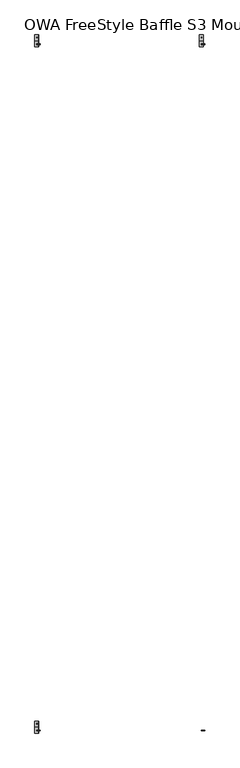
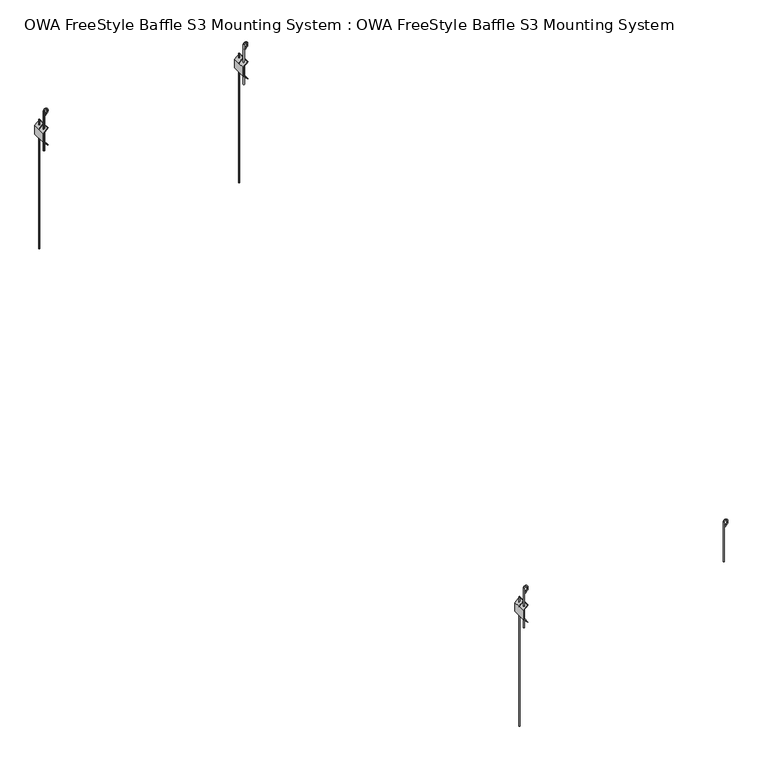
"""IFC4 building model written with IfcOpenShell, lengths in millimetres: proxy geometry, OWA FreeStyle Baffle S3 Mounting System : OWA FreeStyle Baffle S3 Mounting System."""

from ifc_helpers import new_model, si_unit, point, frame, frame_2d, origin, origin_with_axes, place, context, project, spatial, circle_curve, ellipse_curve, trimmed, segment, composite_curve, outline, extrude, faceted_brep, source, transform, mapped, element, save
from ifc_brep_helpers import plane_surface, cylinder_surface, revolved_surface, advanced_brep


def owa_freestyle_baffle_s3_mounting_system_owa_freestyle_baffle_664c1bcd(model_context):
    return source(origin(), model_context, "Body", "SolidModel", [
        advanced_brep(
        [(-125.0826228, -2912.5, 339.3301206), (-128.0826228, -2912.5, 339.3301206), (-125.0826228, -2912.5, 469.8822039), (-128.0826228, -2912.5, 469.8822039), (-114.2638295, -2912.5, 469.8822039), (-117.2638295, -2912.5, 469.8822039), (-124.9635248, -2912.5, 454.4407062), (-122.7329392, -2912.5, 452.4345935), (-117.2638295, -2912.5, 466.7035654), (-114.2638295, -2912.5, 466.7035654), (-117.508527, -2912.5, 458.2435882), (-119.7391125, -2912.5, 460.249701)],
        [
            (0, 1, circle_curve(frame((-126.5826228, -2912.5, 339.3301206), z_axis=(0.0, 0.0, -1.0), x_axis=(-1.0, 0.0, 0.0)), 1.5)),
            (1, 0, circle_curve(frame((-126.5826228, -2912.5, 339.3301206), z_axis=(0.0, 0.0, -1.0), x_axis=(-1.0, 0.0, 0.0)), 1.5)),
            (0, 2),
            (2, 3, circle_curve(frame((-126.5826228, -2912.5, 469.8822039), z_axis=(0.0, 0.0, -1.0), x_axis=(-1.0, 0.0, 0.0)), 1.5)),
            (3, 1),
            (3, 2, circle_curve(frame((-126.5826228, -2912.5, 469.8822039), z_axis=(0.0, 0.0, -1.0), x_axis=(-1.0, 0.0, 0.0)), 1.5)),
            (4, 3, circle_curve(frame((-121.1732261, -2912.5, 469.8822039), z_axis=(0.0, -1.0, 0.0), x_axis=(-1.0, 0.0, 0.0)), 6.9093967)),
            (2, 5, circle_curve(frame((-121.1732261, -2912.5, 469.8822039), z_axis=(0.0, 1.0, 0.0), x_axis=(-1.0, 0.0, 0.0)), 3.9093967)),
            (5, 4, circle_curve(frame((-115.7638295, -2912.5, 469.8822039), z_axis=(0.0, 0.0, 1.0), x_axis=(1.0, 0.0, 0.0)), 1.5)),
            (4, 5, circle_curve(frame((-115.7638295, -2912.5, 469.8822039), z_axis=(0.0, 0.0, 1.0), x_axis=(1.0, 0.0, 0.0)), 1.5)),
            (6, 7, circle_curve(frame((-123.848232, -2912.5, 453.4376499), z_axis=(-0.6687042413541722, 0.0, -0.7435285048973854), x_axis=(0.7435285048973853, 0.0, -0.6687042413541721)), 1.5)),
            (7, 6, circle_curve(frame((-123.848232, -2912.5, 453.4376499), z_axis=(-0.6687042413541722, 0.0, -0.7435285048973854), x_axis=(0.7435285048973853, 0.0, -0.6687042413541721)), 1.5)),
            (5, 8),
            (8, 9, circle_curve(frame((-115.7638295, -2912.5, 466.7035654), z_axis=(0.0, 0.0, 1.0), x_axis=(1.0, 0.0, 0.0)), 1.5)),
            (9, 4),
            (9, 8, circle_curve(frame((-115.7638295, -2912.5, 466.7035654), z_axis=(0.0, 0.0, 1.0), x_axis=(1.0, 0.0, 0.0)), 1.5)),
            (10, 9, circle_curve(frame((-126.9151283, -2912.5, 466.7035654), z_axis=(0.0, -1.0, 0.0), x_axis=(1.0, 0.0, 0.0)), 12.6512988)),
            (8, 11, circle_curve(frame((-126.9151283, -2912.5, 466.7035654), z_axis=(0.0, 1.0, 0.0), x_axis=(1.0, 0.0, 0.0)), 9.6512988)),
            (11, 10, circle_curve(frame((-118.6238198, -2912.5, 459.2466446), z_axis=(0.6687042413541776, 0.0, 0.7435285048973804), x_axis=(0.7435285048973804, 0.0, -0.6687042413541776)), 1.5)),
            (10, 11, circle_curve(frame((-118.6238198, -2912.5, 459.2466446), z_axis=(0.6687042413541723, 0.0, 0.7435285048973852), x_axis=(0.7435285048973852, 0.0, -0.6687042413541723)), 1.5)),
            (11, 6),
            (7, 10),
        ],
        [
            plane_surface(frame((-126.5826228, -2912.5, 339.3301206), z_axis=(0.0, 0.0, -1.0), x_axis=(0.0, -1.0, 0.0))),
            cylinder_surface(frame((-126.5826228, -2912.5, 339.3301206), z_axis=(0.0, 0.0, -1.0), x_axis=(-1.0, 0.0, 0.0)), 1.5),
            revolved_surface(trimmed(ellipse_curve(frame((-126.5826228, -2912.5, 469.8822039), z_axis=(0.0, 0.0, -1.0), x_axis=(-1.0, 0.0, 0.0)), 1.5, 1.5), [point((-125.0826228, -2912.5, 469.8822039))], [point((-128.0826228, -2912.5, 469.8822039))], True, "CARTESIAN"), (-121.1732261, -2912.5, 469.8822039), (0.0, 1.0, 0.0)),
            revolved_surface(trimmed(ellipse_curve(frame((-126.5826228, -2912.5, 469.8822039), z_axis=(0.0, 0.0, -1.0), x_axis=(-1.0, 0.0, 0.0)), 1.5, 1.5), [point((-128.0826228, -2912.5, 469.8822039))], [point((-125.0826228, -2912.5, 469.8822039))], True, "CARTESIAN"), (-121.1732261, -2912.5, 469.8822039), (0.0, 1.0, 0.0)),
            plane_surface(frame((-123.848232, -2912.5, 453.4376499), z_axis=(-0.6687042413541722, 0.0, -0.7435285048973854), x_axis=(0.0, -1.0, 0.0))),
            cylinder_surface(frame((-115.7638295, -2912.5, 469.8822039), z_axis=(0.0, 0.0, 1.0), x_axis=(1.0, 0.0, 0.0)), 1.5),
            revolved_surface(trimmed(ellipse_curve(frame((-115.7638295, -2912.5, 466.7035654), z_axis=(0.0, 0.0, 1.0), x_axis=(1.0, 0.0, 0.0)), 1.5, 1.5), [point((-117.2638295, -2912.5, 466.7035654))], [point((-114.2638295, -2912.5, 466.7035654))], True, "CARTESIAN"), (-126.9151283, -2912.5, 466.7035654), (0.0, 1.0, 0.0)),
            revolved_surface(trimmed(ellipse_curve(frame((-115.7638295, -2912.5, 466.7035654), z_axis=(0.0, 0.0, 1.0), x_axis=(1.0, 0.0, 0.0)), 1.5, 1.5), [point((-114.2638295, -2912.5, 466.7035654))], [point((-117.2638295, -2912.5, 466.7035654))], True, "CARTESIAN"), (-126.9151283, -2912.5, 466.7035654), (0.0, 1.0, 0.0)),
            cylinder_surface(frame((-118.6238198, -2912.5, 459.2466446), z_axis=(0.6687042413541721, 0.0, 0.7435285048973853), x_axis=(0.7435285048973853, 0.0, -0.6687042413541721)), 1.5),
        ],
        [
            (0, [[1, 2]]),
            (1, [[-1, 3, 4, 5]]),
            (1, [[-2, -5, 6, -3]]),
            (2, [[7, -4, 8, 9]]),
            (3, [[-8, -6, -7, 10]]),
            (4, [[11, 12]]),
            (5, [[-9, 13, 14, 15]]),
            (5, [[-10, -15, 16, -13]]),
            (6, [[17, -14, 18, 19]]),
            (7, [[-18, -16, -17, 20]]),
            (8, [[-19, 21, -12, 22]]),
            (8, [[-20, -22, -11, -21]]),
        ],
    ),
        advanced_brep(
        [(-751.5162765, -2886.0, 426.2503123), (-751.5162765, -2889.0, 426.2503123), (-751.5162765, -2886.0, 0.0), (-751.5162765, -2889.0, 0.0), (-751.5162765, -2886.0, 412.0222083), (-751.5162765, -2889.0, 412.0222083), (-751.5162765, -2889.0, 366.7975715), (-751.5162765, -2886.0, 366.7975715), (-751.5162765, -2886.0, 410.6079948), (-751.5162765, -2886.0, 368.211785), (-751.5162765, -2889.0, 368.211785), (-751.5162765, -2889.0, 410.6079948), (-750.0162765, -2912.5, 339.3301206), (-753.0162765, -2912.5, 339.3301206), (-750.0162765, -2912.5, 365.2975715), (-753.0162765, -2912.5, 368.2975715), (-750.0162765, -2912.5, 469.8822039), (-753.0162765, -2912.5, 469.8822039), (-753.0162765, -2912.5, 410.5222083), (-750.0162765, -2912.5, 413.5222083), (-750.0162765, -2912.5, 366.711785), (-750.0162765, -2912.5, 412.1079948), (-753.0162765, -2912.5, 409.1079948), (-753.0162765, -2912.5, 369.711785), (-742.1974832, -2912.5, 469.8822039), (-739.1974832, -2912.5, 469.8822039), (-749.8971784, -2912.5, 454.4407062), (-747.6665929, -2912.5, 452.4345935), (-742.1974832, -2912.5, 466.7035654), (-739.1974832, -2912.5, 466.7035654), (-744.6727662, -2912.5, 460.249701), (-742.4421807, -2912.5, 458.2435882), (-744.5722457, -2922.5, 417.5520255), (-745.2793525, -2922.5, 418.2591323), (-759.7143814, -2922.5, 403.8241035), (-759.7143814, -2922.5, 374.9956763), (-745.2793525, -2922.5, 360.5606475), (-744.5722457, -2922.5, 361.2677543), (-758.7143814, -2922.5, 375.4098899), (-758.7143814, -2922.5, 403.4098899), (-744.5722457, -2877.5, 417.5520255), (-758.7143814, -2877.5, 403.4098899), (-758.7143814, -2877.5, 375.4098899), (-744.5722457, -2877.5, 361.2677543), (-745.2793525, -2877.5, 360.5606475), (-759.7143814, -2877.5, 374.9956763), (-759.7143814, -2877.5, 403.8241035), (-745.2793525, -2877.5, 418.2591323), (-744.5722457, -2901.3, 417.5520255), (-745.2793525, -2901.3, 418.2591323), (-745.2793525, -2898.7, 418.2591323), (-744.5722457, -2898.7, 417.5520255), (-759.7143814, -2901.3, 403.8241035), (-759.7143814, -2898.7, 403.8241035), (-759.7143814, -2898.7, 374.9956763), (-759.7143814, -2901.3, 374.9956763), (-745.2793525, -2901.3, 360.5606475), (-745.2793525, -2898.7, 360.5606475), (-744.5722457, -2901.3, 361.2677543), (-744.5722457, -2898.7, 361.2677543), (-758.7143814, -2901.3, 375.4098899), (-758.7143814, -2898.7, 375.4098899), (-758.7143814, -2898.7, 403.4098899), (-758.7143814, -2901.3, 403.4098899)],
        [
            (0, 1, circle_curve(frame((-751.5162765, -2887.5, 426.2503123), z_axis=(0.0, 0.0, 1.0), x_axis=(0.0, -1.0, 0.0)), 1.5)),
            (1, 0, circle_curve(frame((-751.5162765, -2887.5, 426.2503123), z_axis=(0.0, 0.0, 1.0), x_axis=(0.0, -1.0, 0.0)), 1.5)),
            (2, 3, circle_curve(frame((-751.5162765, -2887.5, 0.0), z_axis=(0.0, 0.0, -1.0), x_axis=(0.0, -1.0, 0.0)), 1.5)),
            (3, 2, circle_curve(frame((-751.5162765, -2887.5, 0.0), z_axis=(0.0, 0.0, -1.0), x_axis=(0.0, -1.0, 0.0)), 1.5)),
            (0, 4),
            (4, 5, ellipse_curve(frame((-751.5162765, -2887.5, 412.0222083), z_axis=(-0.7071067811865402, 0.0, 0.7071067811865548), x_axis=(0.7071067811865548, 0.0, 0.7071067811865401)), 2.1213203, 1.5)),
            (5, 1),
            (3, 6),
            (6, 7, ellipse_curve(frame((-751.5162765, -2887.5, 366.7975715), z_axis=(-0.7071067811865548, 0.0, -0.7071067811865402), x_axis=(-0.7071067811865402, 0.0, 0.7071067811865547)), 2.1213203, 1.5)),
            (7, 2),
            (8, 9),
            (9, 10, ellipse_curve(frame((-751.5162765, -2887.5, 368.211785), z_axis=(0.7071067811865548, 0.0, 0.7071067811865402), x_axis=(-0.7071067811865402, 0.0, 0.7071067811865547)), 2.1213203, 1.5)),
            (10, 11),
            (11, 8, ellipse_curve(frame((-751.5162765, -2887.5, 410.6079948), z_axis=(0.7071067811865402, 0.0, -0.7071067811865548), x_axis=(0.7071067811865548, 0.0, 0.7071067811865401)), 2.1213203, 1.5)),
            (5, 4, ellipse_curve(frame((-751.5162765, -2887.5, 412.0222083), z_axis=(-0.7071067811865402, 0.0, 0.7071067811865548), x_axis=(0.7071067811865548, 0.0, 0.7071067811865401)), 2.1213203, 1.5)),
            (7, 6, ellipse_curve(frame((-751.5162765, -2887.5, 366.7975715), z_axis=(-0.7071067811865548, 0.0, -0.7071067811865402), x_axis=(-0.7071067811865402, 0.0, 0.7071067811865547)), 2.1213203, 1.5)),
            (8, 11, ellipse_curve(frame((-751.5162765, -2887.5, 410.6079948), z_axis=(0.7071067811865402, 0.0, -0.7071067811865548), x_axis=(0.7071067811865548, 0.0, 0.7071067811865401)), 2.1213203, 1.5)),
            (10, 9, ellipse_curve(frame((-751.5162765, -2887.5, 368.211785), z_axis=(0.7071067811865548, 0.0, 0.7071067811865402), x_axis=(-0.7071067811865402, 0.0, 0.7071067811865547)), 2.1213203, 1.5)),
            (12, 13, circle_curve(frame((-751.5162765, -2912.5, 339.3301206), z_axis=(0.0, 0.0, -1.0), x_axis=(-1.0, 0.0, 0.0)), 1.5)),
            (13, 12, circle_curve(frame((-751.5162765, -2912.5, 339.3301206), z_axis=(0.0, 0.0, -1.0), x_axis=(-1.0, 0.0, 0.0)), 1.5)),
            (12, 14),
            (14, 15, ellipse_curve(frame((-751.5162765, -2912.5, 366.7975715), z_axis=(-0.7071067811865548, 0.0, -0.7071067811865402), x_axis=(0.7071067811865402, 0.0, -0.7071067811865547)), 2.1213203, 1.5)),
            (15, 13),
            (16, 17, circle_curve(frame((-751.5162765, -2912.5, 469.8822039), z_axis=(0.0, 0.0, -1.0), x_axis=(-1.0, 0.0, 0.0)), 1.5)),
            (17, 18),
            (18, 19, ellipse_curve(frame((-751.5162765, -2912.5, 412.0222083), z_axis=(-0.7071067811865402, 0.0, 0.7071067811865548), x_axis=(-0.7071067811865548, 0.0, -0.7071067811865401)), 2.1213203, 1.5)),
            (19, 16),
            (20, 21),
            (21, 22, ellipse_curve(frame((-751.5162765, -2912.5, 410.6079948), z_axis=(0.7071067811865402, 0.0, -0.7071067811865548), x_axis=(-0.7071067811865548, 0.0, -0.7071067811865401)), 2.1213203, 1.5)),
            (22, 23),
            (23, 20, ellipse_curve(frame((-751.5162765, -2912.5, 368.211785), z_axis=(0.7071067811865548, 0.0, 0.7071067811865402), x_axis=(0.7071067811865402, 0.0, -0.7071067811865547)), 2.1213203, 1.5)),
            (15, 14, ellipse_curve(frame((-751.5162765, -2912.5, 366.7975715), z_axis=(-0.7071067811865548, 0.0, -0.7071067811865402), x_axis=(0.7071067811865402, 0.0, -0.7071067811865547)), 2.1213203, 1.5)),
            (20, 23, ellipse_curve(frame((-751.5162765, -2912.5, 368.211785), z_axis=(0.7071067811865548, 0.0, 0.7071067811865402), x_axis=(0.7071067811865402, 0.0, -0.7071067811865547)), 2.1213203, 1.5)),
            (22, 21, ellipse_curve(frame((-751.5162765, -2912.5, 410.6079948), z_axis=(0.7071067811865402, 0.0, -0.7071067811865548), x_axis=(-0.7071067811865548, 0.0, -0.7071067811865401)), 2.1213203, 1.5)),
            (17, 16, circle_curve(frame((-751.5162765, -2912.5, 469.8822039), z_axis=(0.0, 0.0, -1.0), x_axis=(-1.0, 0.0, 0.0)), 1.5)),
            (19, 18, ellipse_curve(frame((-751.5162765, -2912.5, 412.0222083), z_axis=(-0.7071067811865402, 0.0, 0.7071067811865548), x_axis=(-0.7071067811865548, 0.0, -0.7071067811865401)), 2.1213203, 1.5)),
            (16, 24, circle_curve(frame((-746.1068798, -2912.5, 469.8822039), z_axis=(0.0, 1.0, 0.0), x_axis=(-1.0, 0.0, 0.0)), 3.9093967)),
            (24, 25, circle_curve(frame((-740.6974832, -2912.5, 469.8822039), z_axis=(0.0, 0.0, 1.0), x_axis=(1.0, 0.0, 0.0)), 1.5)),
            (25, 17, circle_curve(frame((-746.1068798, -2912.5, 469.8822039), z_axis=(0.0, -1.0, 0.0), x_axis=(-1.0, 0.0, 0.0)), 6.9093967)),
            (25, 24, circle_curve(frame((-740.6974832, -2912.5, 469.8822039), z_axis=(0.0, 0.0, 1.0), x_axis=(1.0, 0.0, 0.0)), 1.5)),
            (26, 27, circle_curve(frame((-748.7818857, -2912.5, 453.4376499), z_axis=(-0.6687042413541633, 0.0, -0.7435285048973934), x_axis=(0.7435285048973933, 0.0, -0.6687042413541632)), 1.5)),
            (27, 26, circle_curve(frame((-748.7818857, -2912.5, 453.4376499), z_axis=(-0.6687042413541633, 0.0, -0.7435285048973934), x_axis=(0.7435285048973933, 0.0, -0.6687042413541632)), 1.5)),
            (24, 28),
            (28, 29, circle_curve(frame((-740.6974832, -2912.5, 466.7035654), z_axis=(0.0, 0.0, 1.0), x_axis=(1.0, 0.0, 0.0)), 1.5)),
            (29, 25),
            (29, 28, circle_curve(frame((-740.6974832, -2912.5, 466.7035654), z_axis=(0.0, 0.0, 1.0), x_axis=(1.0, 0.0, 0.0)), 1.5)),
            (28, 30, circle_curve(frame((-751.8487819, -2912.5, 466.7035654), z_axis=(0.0, 1.0, 0.0), x_axis=(1.0, 0.0, 0.0)), 9.6512988)),
            (30, 31, circle_curve(frame((-743.5574734, -2912.5, 459.2466446), z_axis=(0.668704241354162, 0.0, 0.7435285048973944), x_axis=(0.7435285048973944, 0.0, -0.668704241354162)), 1.5)),
            (31, 29, circle_curve(frame((-751.8487819, -2912.5, 466.7035654), z_axis=(0.0, -1.0, 0.0), x_axis=(1.0, 0.0, 0.0)), 12.6512988)),
            (31, 30, circle_curve(frame((-743.5574734, -2912.5, 459.2466446), z_axis=(0.6687042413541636, 0.0, 0.743528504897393), x_axis=(0.743528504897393, 0.0, -0.6687042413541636)), 1.5)),
            (27, 31),
            (30, 26),
            (32, 33),
            (33, 34),
            (34, 35),
            (35, 36),
            (36, 37),
            (37, 38),
            (38, 39),
            (39, 32),
            (40, 41),
            (41, 42),
            (42, 43),
            (43, 44),
            (44, 45),
            (45, 46),
            (46, 47),
            (47, 40),
            (32, 48),
            (48, 49),
            (49, 33),
            (47, 50),
            (50, 51),
            (51, 40),
            (49, 52),
            (52, 34),
            (46, 53),
            (53, 50),
            (52, 53),
            (45, 54),
            (54, 55),
            (55, 35),
            (55, 56),
            (56, 36),
            (44, 57),
            (57, 54),
            (56, 58),
            (58, 37),
            (43, 59),
            (59, 57),
            (58, 60),
            (60, 38),
            (42, 61),
            (61, 59),
            (60, 61),
            (41, 62),
            (62, 63),
            (63, 39),
            (63, 48),
            (51, 62),
            (61, 54),
            (53, 62),
            (55, 60),
            (63, 52),
        ],
        [
            plane_surface(frame((-751.5162765, -2887.5, 426.2503123), z_axis=(0.0, 0.0, 1.0), x_axis=(0.0, -1.0, 0.0))),
            plane_surface(frame((-751.5162765, -2887.5, 0.0), z_axis=(0.0, 0.0, -1.0), x_axis=(0.0, -1.0, 0.0))),
            cylinder_surface(frame((-751.5162765, -2887.5, 426.2503123), z_axis=(0.0, 0.0, 1.0), x_axis=(0.0, -1.0, 0.0)), 1.5),
            plane_surface(frame((-751.5162765, -2912.5, 339.3301206), z_axis=(0.0, 0.0, -1.0), x_axis=(0.0, -1.0, 0.0))),
            cylinder_surface(frame((-751.5162765, -2912.5, 339.3301206), z_axis=(0.0, 0.0, -1.0), x_axis=(-1.0, 0.0, 0.0)), 1.5),
            revolved_surface(trimmed(ellipse_curve(frame((-751.5162765, -2912.5, 469.8822039), z_axis=(0.0, 0.0, -1.0), x_axis=(-1.0, 0.0, 0.0)), 1.5, 1.5), [point((-750.0162765, -2912.5, 469.8822039))], [point((-753.0162765, -2912.5, 469.8822039))], True, "CARTESIAN"), (-746.1068798, -2912.5, 469.8822039), (0.0, 1.0, 0.0)),
            revolved_surface(trimmed(ellipse_curve(frame((-751.5162765, -2912.5, 469.8822039), z_axis=(0.0, 0.0, -1.0), x_axis=(-1.0, 0.0, 0.0)), 1.5, 1.5), [point((-753.0162765, -2912.5, 469.8822039))], [point((-750.0162765, -2912.5, 469.8822039))], True, "CARTESIAN"), (-746.1068798, -2912.5, 469.8822039), (0.0, 1.0, 0.0)),
            plane_surface(frame((-748.7818857, -2912.5, 453.4376499), z_axis=(-0.6687042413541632, 0.0, -0.7435285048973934), x_axis=(0.0, -1.0, 0.0))),
            cylinder_surface(frame((-740.6974832, -2912.5, 469.8822039), z_axis=(0.0, 0.0, 1.0), x_axis=(1.0, 0.0, 0.0)), 1.5),
            revolved_surface(trimmed(ellipse_curve(frame((-740.6974832, -2912.5, 466.7035654), z_axis=(0.0, 0.0, 1.0), x_axis=(1.0, 0.0, 0.0)), 1.5, 1.5), [point((-742.1974832, -2912.5, 466.7035654))], [point((-739.1974832, -2912.5, 466.7035654))], True, "CARTESIAN"), (-751.8487819, -2912.5, 466.7035654), (0.0, 1.0, 0.0)),
            revolved_surface(trimmed(ellipse_curve(frame((-740.6974832, -2912.5, 466.7035654), z_axis=(0.0, 0.0, 1.0), x_axis=(1.0, 0.0, 0.0)), 1.5, 1.5), [point((-739.1974832, -2912.5, 466.7035654))], [point((-742.1974832, -2912.5, 466.7035654))], True, "CARTESIAN"), (-751.8487819, -2912.5, 466.7035654), (0.0, 1.0, 0.0)),
            cylinder_surface(frame((-743.5574734, -2912.5, 459.2466446), z_axis=(0.6687042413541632, 0.0, 0.7435285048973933), x_axis=(0.7435285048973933, 0.0, -0.6687042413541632)), 1.5),
            plane_surface(frame((-744.5722457, -2922.5, 361.2677543), z_axis=(0.0, -1.0, 0.0), x_axis=(0.0, 0.0, 1.0))),
            plane_surface(frame((-744.5722457, -2877.5, 361.2677543), z_axis=(0.0, 1.0, 0.0), x_axis=(0.0, 0.0, 1.0))),
            plane_surface(frame((-744.5722457, -2922.5, 417.5520255), z_axis=(0.707106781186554, 0.0, 0.7071067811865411), x_axis=(0.0, 1.0, 0.0))),
            plane_surface(frame((-745.2793525, -2922.5, 418.2591323), z_axis=(-0.7071067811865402, 0.0, 0.7071067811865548), x_axis=(0.0, 1.0, 0.0))),
            plane_surface(frame((-759.7143814, -2922.5, 403.8241035), z_axis=(-1.0, 0.0, 0.0), x_axis=(0.0, 1.0, 0.0))),
            plane_surface(frame((-759.7143814, -2922.5, 374.9956763), z_axis=(-0.7071067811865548, 0.0, -0.7071067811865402), x_axis=(0.0, 1.0, 0.0))),
            plane_surface(frame((-745.2793525, -2922.5, 360.5606475), z_axis=(0.7071067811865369, 0.0, -0.7071067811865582), x_axis=(0.0, 1.0, 0.0))),
            plane_surface(frame((-744.5722457, -2922.5, 361.2677543), z_axis=(0.7071067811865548, 0.0, 0.7071067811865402), x_axis=(0.0, 1.0, 0.0))),
            plane_surface(frame((-758.7143814, -2922.5, 375.4098899), z_axis=(1.0, 0.0, 0.0), x_axis=(0.0, 1.0, 0.0))),
            plane_surface(frame((-758.7143814, -2922.5, 403.4098899), z_axis=(0.7071067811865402, 0.0, -0.7071067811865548), x_axis=(0.0, 1.0, 0.0))),
            plane_surface(frame((-758.7143814, -2898.7, 375.4098899), z_axis=(0.0, -1.0000000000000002, 0.0), x_axis=(0.9238795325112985, 0.0, 0.3826834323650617))),
            plane_surface(frame((-758.7143814, -2901.3, 375.4098899), z_axis=(0.0, 1.0000000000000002, 0.0), x_axis=(-0.9238795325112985, 0.0, -0.3826834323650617))),
            plane_surface(frame((-759.7143814, -2898.7, 374.9956763), z_axis=(0.3826834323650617, 0.0, -0.9238795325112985), x_axis=(0.0, -1.0, 0.0))),
            plane_surface(frame((-758.7143814, -2898.7, 403.4098899), z_axis=(0.3826834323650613, 0.0, 0.9238795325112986), x_axis=(0.0, -1.0, 0.0))),
        ],
        [
            (0, [[1, 2]]),
            (1, [[3, 4]]),
            (2, [[-1, 5, 6, 7]]),
            (2, [[-4, 8, 9, 10]]),
            (2, [[11, 12, 13, 14]]),
            (2, [[-2, -7, 15, -5]]),
            (2, [[-3, -10, 16, -8]]),
            (2, [[-11, 17, -13, 18]]),
            (3, [[19, 20]]),
            (4, [[-19, 21, 22, 23]]),
            (4, [[24, 25, 26, 27]]),
            (4, [[28, 29, 30, 31]]),
            (4, [[-20, -23, 32, -21]]),
            (4, [[-28, 33, -30, 34]]),
            (4, [[35, -27, 36, -25]]),
            (5, [[-24, 37, 38, 39]]),
            (6, [[-35, -39, 40, -37]]),
            (7, [[41, 42]]),
            (8, [[-38, 43, 44, 45]]),
            (8, [[-40, -45, 46, -43]]),
            (9, [[-44, 47, 48, 49]]),
            (10, [[-46, -49, 50, -47]]),
            (11, [[-42, 51, -48, 52]]),
            (11, [[-41, -52, -50, -51]]),
            (12, [[53, 54, 55, 56, 57, 58, 59, 60]]),
            (13, [[61, 62, 63, 64, 65, 66, 67, 68]]),
            (14, [[-53, 69, 70, 71]]),
            (14, [[-68, 72, 73, 74]]),
            (15, [[-54, -71, 75, 76], [-26, -36]]),
            (15, [[-67, 77, 78, -72], [-6, -15]]),
            (16, [[-55, -76, 79, -77, -66, 80, 81, 82]]),
            (17, [[-56, -82, 83, 84], [-22, -32]]),
            (17, [[-65, 85, 86, -80], [-9, -16]]),
            (18, [[-57, -84, 87, 88]]),
            (18, [[-64, 89, 90, -85]]),
            (19, [[-58, -88, 91, 92], [-31, -33]]),
            (19, [[-63, 93, 94, -89], [-12, -18]]),
            (20, [[-59, -92, 95, -93, -62, 96, 97, 98]]),
            (21, [[-60, -98, 99, -69], [-29, -34]]),
            (21, [[-61, -74, 100, -96], [-14, -17]]),
            (22, [[101, -86, -90, -94]]),
            (22, [[102, -100, -73, -78]]),
            (23, [[103, -91, -87, -83]]),
            (23, [[104, -75, -70, -99]]),
            (24, [[-101, -95, -103, -81]]),
            (25, [[-102, -79, -104, -97]]),
        ],
    ),
        faceted_brep([(-119.638592, -322.5, 417.5520255), (-120.3456988, -322.5, 418.2591323), (-134.7807277, -322.5, 403.8241035), (-134.7807277, -322.5, 374.9956763), (-120.3456988, -322.5, 360.5606475), (-119.638592, -322.5, 361.2677543), (-133.7807277, -322.5, 375.4098899), (-133.7807277, -322.5, 403.4098899), (-119.638592, -277.5, 417.5520255), (-133.7807277, -277.5, 403.4098899), (-133.7807277, -277.5, 375.4098899), (-119.638592, -277.5, 361.2677543), (-120.3456988, -277.5, 360.5606475), (-134.7807277, -277.5, 374.9956763), (-134.7807277, -277.5, 403.8241035), (-120.3456988, -277.5, 418.2591323), (-119.638592, -301.3, 417.5520255), (-120.3456988, -301.3, 418.2591323), (-120.3456988, -298.7, 418.2591323), (-119.638592, -298.7, 417.5520255), (-134.7807277, -301.3, 403.8241035), (-134.7807277, -298.7, 403.8241035), (-134.7807277, -298.7, 374.9956763), (-134.7807277, -301.3, 374.9681948), (-120.3456988, -301.3, 360.5606475), (-120.3456988, -298.7, 360.5606475), (-119.638592, -301.3, 361.2677543), (-119.638592, -298.7, 361.2677543), (-133.7807277, -301.3, 375.4098899), (-133.7807277, -298.7, 375.4098899), (-133.7807277, -298.7, 403.4098899), (-133.7807277, -301.3, 403.4373715)], [[[0, 1, 2, 3, 4, 5, 6, 7]], [[8, 9, 10, 11, 12, 13, 14, 15]], [[1, 0, 16, 17]], [[8, 15, 18, 19]], [[2, 1, 17, 20]], [[15, 14, 21, 18]], [[3, 2, 20, 21, 14, 13, 22, 23]], [[4, 3, 23, 24]], [[13, 12, 25, 22]], [[5, 4, 24, 26]], [[12, 11, 27, 25]], [[6, 5, 26, 28]], [[11, 10, 29, 27]], [[7, 6, 28, 29, 10, 9, 30, 31]], [[0, 7, 31, 16]], [[9, 8, 19, 30]], [[29, 22, 25, 27]], [[21, 30, 19, 18]], [[23, 28, 26, 24]], [[31, 20, 17, 16]], [[22, 29, 28, 23]], [[30, 21, 20, 31]]]),
        extrude(outline(composite_curve([segment(trimmed(circle_curve(frame_2d((-126.5826228, -287.5)), 1.5), [point((-126.5826228, -286.0))], [point((-126.5826228, -289.0))], False, "CARTESIAN"), True, "CONTINUOUS"), segment(trimmed(circle_curve(frame_2d((-126.5826228, -287.5)), 1.5), [point((-126.5826228, -289.0))], [point((-126.5826228, -286.0))], False, "CARTESIAN"), True, "CONTINUOUS")], self_intersect=False)), origin_with_axes(), (0.0, 0.0, 1.0), 426.2503123),
        advanced_brep(
        [(-125.0826228, -312.5, 339.3301206), (-128.0826228, -312.5, 339.3301206), (-125.0826228, -312.5, 469.8822039), (-128.0826228, -312.5, 469.8822039), (-114.2638295, -312.5, 469.8822039), (-117.2638295, -312.5, 469.8822039), (-124.9635248, -312.5, 454.4407062), (-122.7329392, -312.5, 452.4345935), (-117.2638295, -312.5, 466.7035654), (-114.2638295, -312.5, 466.7035654), (-117.508527, -312.5, 458.2435882), (-119.7391125, -312.5, 460.249701)],
        [
            (0, 1, circle_curve(frame((-126.5826228, -312.5, 339.3301206), z_axis=(0.0, 0.0, -1.0), x_axis=(-1.0, 0.0, 0.0)), 1.5)),
            (1, 0, circle_curve(frame((-126.5826228, -312.5, 339.3301206), z_axis=(0.0, 0.0, -1.0), x_axis=(-1.0, 0.0, 0.0)), 1.5)),
            (0, 2),
            (2, 3, circle_curve(frame((-126.5826228, -312.5, 469.8822039), z_axis=(0.0, 0.0, -1.0), x_axis=(-1.0, 0.0, 0.0)), 1.5)),
            (3, 1),
            (3, 2, circle_curve(frame((-126.5826228, -312.5, 469.8822039), z_axis=(0.0, 0.0, -1.0), x_axis=(-1.0, 0.0, 0.0)), 1.5)),
            (4, 3, circle_curve(frame((-121.1732261, -312.5, 469.8822039), z_axis=(0.0, -1.0, 0.0), x_axis=(-1.0, 0.0, 0.0)), 6.9093967)),
            (2, 5, circle_curve(frame((-121.1732261, -312.5, 469.8822039), z_axis=(0.0, 1.0, 0.0), x_axis=(-1.0, 0.0, 0.0)), 3.9093967)),
            (5, 4, circle_curve(frame((-115.7638295, -312.5, 469.8822039), z_axis=(0.0, 0.0, 1.0), x_axis=(1.0, 0.0, 0.0)), 1.5)),
            (4, 5, circle_curve(frame((-115.7638295, -312.5, 469.8822039), z_axis=(0.0, 0.0, 1.0), x_axis=(1.0, 0.0, 0.0)), 1.5)),
            (6, 7, circle_curve(frame((-123.848232, -312.5, 453.4376499), z_axis=(-0.6687042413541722, 0.0, -0.7435285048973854), x_axis=(0.7435285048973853, 0.0, -0.6687042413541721)), 1.5)),
            (7, 6, circle_curve(frame((-123.848232, -312.5, 453.4376499), z_axis=(-0.6687042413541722, 0.0, -0.7435285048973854), x_axis=(0.7435285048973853, 0.0, -0.6687042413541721)), 1.5)),
            (5, 8),
            (8, 9, circle_curve(frame((-115.7638295, -312.5, 466.7035654), z_axis=(0.0, 0.0, 1.0), x_axis=(1.0, 0.0, 0.0)), 1.5)),
            (9, 4),
            (9, 8, circle_curve(frame((-115.7638295, -312.5, 466.7035654), z_axis=(0.0, 0.0, 1.0), x_axis=(1.0, 0.0, 0.0)), 1.5)),
            (10, 9, circle_curve(frame((-126.9151283, -312.5, 466.7035654), z_axis=(0.0, -1.0, 0.0), x_axis=(1.0, 0.0, 0.0)), 12.6512988)),
            (8, 11, circle_curve(frame((-126.9151283, -312.5, 466.7035654), z_axis=(0.0, 1.0, 0.0), x_axis=(1.0, 0.0, 0.0)), 9.6512988)),
            (11, 10, circle_curve(frame((-118.6238198, -312.5, 459.2466446), z_axis=(0.6687042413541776, 0.0, 0.7435285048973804), x_axis=(0.7435285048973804, 0.0, -0.6687042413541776)), 1.5)),
            (10, 11, circle_curve(frame((-118.6238198, -312.5, 459.2466446), z_axis=(0.6687042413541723, 0.0, 0.7435285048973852), x_axis=(0.7435285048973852, 0.0, -0.6687042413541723)), 1.5)),
            (11, 6),
            (7, 10),
        ],
        [
            plane_surface(frame((-126.5826228, -312.5, 339.3301206), z_axis=(0.0, 0.0, -1.0), x_axis=(0.0, -1.0, 0.0))),
            cylinder_surface(frame((-126.5826228, -312.5, 339.3301206), z_axis=(0.0, 0.0, -1.0), x_axis=(-1.0, 0.0, 0.0)), 1.5),
            revolved_surface(trimmed(ellipse_curve(frame((-126.5826228, -312.5, 469.8822039), z_axis=(0.0, 0.0, -1.0), x_axis=(-1.0, 0.0, 0.0)), 1.5, 1.5), [point((-125.0826228, -312.5, 469.8822039))], [point((-128.0826228, -312.5, 469.8822039))], True, "CARTESIAN"), (-121.1732261, -312.5, 469.8822039), (0.0, 1.0, 0.0)),
            revolved_surface(trimmed(ellipse_curve(frame((-126.5826228, -312.5, 469.8822039), z_axis=(0.0, 0.0, -1.0), x_axis=(-1.0, 0.0, 0.0)), 1.5, 1.5), [point((-128.0826228, -312.5, 469.8822039))], [point((-125.0826228, -312.5, 469.8822039))], True, "CARTESIAN"), (-121.1732261, -312.5, 469.8822039), (0.0, 1.0, 0.0)),
            plane_surface(frame((-123.848232, -312.5, 453.4376499), z_axis=(-0.6687042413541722, 0.0, -0.7435285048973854), x_axis=(0.0, -1.0, 0.0))),
            cylinder_surface(frame((-115.7638295, -312.5, 469.8822039), z_axis=(0.0, 0.0, 1.0), x_axis=(1.0, 0.0, 0.0)), 1.5),
            revolved_surface(trimmed(ellipse_curve(frame((-115.7638295, -312.5, 466.7035654), z_axis=(0.0, 0.0, 1.0), x_axis=(1.0, 0.0, 0.0)), 1.5, 1.5), [point((-117.2638295, -312.5, 466.7035654))], [point((-114.2638295, -312.5, 466.7035654))], True, "CARTESIAN"), (-126.9151283, -312.5, 466.7035654), (0.0, 1.0, 0.0)),
            revolved_surface(trimmed(ellipse_curve(frame((-115.7638295, -312.5, 466.7035654), z_axis=(0.0, 0.0, 1.0), x_axis=(1.0, 0.0, 0.0)), 1.5, 1.5), [point((-114.2638295, -312.5, 466.7035654))], [point((-117.2638295, -312.5, 466.7035654))], True, "CARTESIAN"), (-126.9151283, -312.5, 466.7035654), (0.0, 1.0, 0.0)),
            cylinder_surface(frame((-118.6238198, -312.5, 459.2466446), z_axis=(0.6687042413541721, 0.0, 0.7435285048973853), x_axis=(0.7435285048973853, 0.0, -0.6687042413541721)), 1.5),
        ],
        [
            (0, [[1, 2]]),
            (1, [[-1, 3, 4, 5]]),
            (1, [[-2, -5, 6, -3]]),
            (2, [[7, -4, 8, 9]]),
            (3, [[-8, -6, -7, 10]]),
            (4, [[11, 12]]),
            (5, [[-9, 13, 14, 15]]),
            (5, [[-10, -15, 16, -13]]),
            (6, [[17, -14, 18, 19]]),
            (7, [[-18, -16, -17, 20]]),
            (8, [[-19, 21, -12, 22]]),
            (8, [[-20, -22, -11, -21]]),
        ],
    ),
        advanced_brep(
        [(-751.5162765, -286.0, 426.2503123), (-751.5162765, -289.0, 426.2503123), (-751.5162765, -286.0, 0.0), (-751.5162765, -289.0, 0.0), (-751.5162765, -286.0, 412.0222083), (-751.5162765, -289.0, 412.0222083), (-751.5162765, -289.0, 366.7975715), (-751.5162765, -286.0, 366.7975715), (-751.5162765, -286.0, 410.6079948), (-751.5162765, -286.0, 368.211785), (-751.5162765, -289.0, 368.211785), (-751.5162765, -289.0, 410.6079948), (-750.0162765, -312.5, 339.3301206), (-753.0162765, -312.5, 339.3301206), (-750.0162765, -312.5, 365.2975715), (-753.0162765, -312.5, 368.2975715), (-750.0162765, -312.5, 469.8822039), (-753.0162765, -312.5, 469.8822039), (-753.0162765, -312.5, 410.5222083), (-750.0162765, -312.5, 413.5222083), (-750.0162765, -312.5, 366.711785), (-750.0162765, -312.5, 412.1079948), (-753.0162765, -312.5, 409.1079948), (-753.0162765, -312.5, 369.711785), (-742.1974832, -312.5, 469.8822039), (-739.1974832, -312.5, 469.8822039), (-749.8971784, -312.5, 454.4407062), (-747.6665929, -312.5, 452.4345935), (-742.1974832, -312.5, 466.7035654), (-739.1974832, -312.5, 466.7035654), (-744.6727662, -312.5, 460.249701), (-742.4421807, -312.5, 458.2435882), (-744.5722457, -322.5, 417.5520255), (-745.2793525, -322.5, 418.2591323), (-759.7143814, -322.5, 403.8241035), (-759.7143814, -322.5, 374.9956763), (-745.2793525, -322.5, 360.5606475), (-744.5722457, -322.5, 361.2677543), (-758.7143814, -322.5, 375.4098899), (-758.7143814, -322.5, 403.4098899), (-744.5722457, -277.5, 417.5520255), (-758.7143814, -277.5, 403.4098899), (-758.7143814, -277.5, 375.4098899), (-744.5722457, -277.5, 361.2677543), (-745.2793525, -277.5, 360.5606475), (-759.7143814, -277.5, 374.9956763), (-759.7143814, -277.5, 403.8241035), (-745.2793525, -277.5, 418.2591323), (-744.5722457, -301.3, 417.5520255), (-745.2793525, -301.3, 418.2591323), (-745.2793525, -298.7, 418.2591323), (-744.5722457, -298.7, 417.5520255), (-759.7143814, -301.3, 403.8241035), (-759.7143814, -298.7, 403.8241035), (-759.7143814, -298.7, 374.9956763), (-759.7143814, -301.3, 374.9956763), (-745.2793525, -301.3, 360.5606475), (-745.2793525, -298.7, 360.5606475), (-744.5722457, -301.3, 361.2677543), (-744.5722457, -298.7, 361.2677543), (-758.7143814, -301.3, 375.4098899), (-758.7143814, -298.7, 375.4098899), (-758.7143814, -298.7, 403.4098899), (-758.7143814, -301.3, 403.4098899)],
        [
            (0, 1, circle_curve(frame((-751.5162765, -287.5, 426.2503123), z_axis=(0.0, 0.0, 1.0), x_axis=(0.0, -1.0, 0.0)), 1.5)),
            (1, 0, circle_curve(frame((-751.5162765, -287.5, 426.2503123), z_axis=(0.0, 0.0, 1.0), x_axis=(0.0, -1.0, 0.0)), 1.5)),
            (2, 3, circle_curve(frame((-751.5162765, -287.5, 0.0), z_axis=(0.0, 0.0, -1.0), x_axis=(0.0, -1.0, 0.0)), 1.5)),
            (3, 2, circle_curve(frame((-751.5162765, -287.5, 0.0), z_axis=(0.0, 0.0, -1.0), x_axis=(0.0, -1.0, 0.0)), 1.5)),
            (0, 4),
            (4, 5, ellipse_curve(frame((-751.5162765, -287.5, 412.0222083), z_axis=(-0.7071067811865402, 0.0, 0.7071067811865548), x_axis=(0.7071067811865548, 0.0, 0.7071067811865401)), 2.1213203, 1.5)),
            (5, 1),
            (3, 6),
            (6, 7, ellipse_curve(frame((-751.5162765, -287.5, 366.7975715), z_axis=(-0.7071067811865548, 0.0, -0.7071067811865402), x_axis=(-0.7071067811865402, 0.0, 0.7071067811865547)), 2.1213203, 1.5)),
            (7, 2),
            (8, 9),
            (9, 10, ellipse_curve(frame((-751.5162765, -287.5, 368.211785), z_axis=(0.7071067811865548, 0.0, 0.7071067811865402), x_axis=(-0.7071067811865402, 0.0, 0.7071067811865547)), 2.1213203, 1.5)),
            (10, 11),
            (11, 8, ellipse_curve(frame((-751.5162765, -287.5, 410.6079948), z_axis=(0.7071067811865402, 0.0, -0.7071067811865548), x_axis=(0.7071067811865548, 0.0, 0.7071067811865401)), 2.1213203, 1.5)),
            (5, 4, ellipse_curve(frame((-751.5162765, -287.5, 412.0222083), z_axis=(-0.7071067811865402, 0.0, 0.7071067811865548), x_axis=(0.7071067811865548, 0.0, 0.7071067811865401)), 2.1213203, 1.5)),
            (7, 6, ellipse_curve(frame((-751.5162765, -287.5, 366.7975715), z_axis=(-0.7071067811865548, 0.0, -0.7071067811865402), x_axis=(-0.7071067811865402, 0.0, 0.7071067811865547)), 2.1213203, 1.5)),
            (8, 11, ellipse_curve(frame((-751.5162765, -287.5, 410.6079948), z_axis=(0.7071067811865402, 0.0, -0.7071067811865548), x_axis=(0.7071067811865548, 0.0, 0.7071067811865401)), 2.1213203, 1.5)),
            (10, 9, ellipse_curve(frame((-751.5162765, -287.5, 368.211785), z_axis=(0.7071067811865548, 0.0, 0.7071067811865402), x_axis=(-0.7071067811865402, 0.0, 0.7071067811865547)), 2.1213203, 1.5)),
            (12, 13, circle_curve(frame((-751.5162765, -312.5, 339.3301206), z_axis=(0.0, 0.0, -1.0), x_axis=(-1.0, 0.0, 0.0)), 1.5)),
            (13, 12, circle_curve(frame((-751.5162765, -312.5, 339.3301206), z_axis=(0.0, 0.0, -1.0), x_axis=(-1.0, 0.0, 0.0)), 1.5)),
            (12, 14),
            (14, 15, ellipse_curve(frame((-751.5162765, -312.5, 366.7975715), z_axis=(-0.7071067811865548, 0.0, -0.7071067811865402), x_axis=(0.7071067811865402, 0.0, -0.7071067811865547)), 2.1213203, 1.5)),
            (15, 13),
            (16, 17, circle_curve(frame((-751.5162765, -312.5, 469.8822039), z_axis=(0.0, 0.0, -1.0), x_axis=(-1.0, 0.0, 0.0)), 1.5)),
            (17, 18),
            (18, 19, ellipse_curve(frame((-751.5162765, -312.5, 412.0222083), z_axis=(-0.7071067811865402, 0.0, 0.7071067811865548), x_axis=(-0.7071067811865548, 0.0, -0.7071067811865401)), 2.1213203, 1.5)),
            (19, 16),
            (20, 21),
            (21, 22, ellipse_curve(frame((-751.5162765, -312.5, 410.6079948), z_axis=(0.7071067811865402, 0.0, -0.7071067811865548), x_axis=(-0.7071067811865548, 0.0, -0.7071067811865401)), 2.1213203, 1.5)),
            (22, 23),
            (23, 20, ellipse_curve(frame((-751.5162765, -312.5, 368.211785), z_axis=(0.7071067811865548, 0.0, 0.7071067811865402), x_axis=(0.7071067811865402, 0.0, -0.7071067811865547)), 2.1213203, 1.5)),
            (15, 14, ellipse_curve(frame((-751.5162765, -312.5, 366.7975715), z_axis=(-0.7071067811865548, 0.0, -0.7071067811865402), x_axis=(0.7071067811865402, 0.0, -0.7071067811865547)), 2.1213203, 1.5)),
            (20, 23, ellipse_curve(frame((-751.5162765, -312.5, 368.211785), z_axis=(0.7071067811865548, 0.0, 0.7071067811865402), x_axis=(0.7071067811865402, 0.0, -0.7071067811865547)), 2.1213203, 1.5)),
            (22, 21, ellipse_curve(frame((-751.5162765, -312.5, 410.6079948), z_axis=(0.7071067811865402, 0.0, -0.7071067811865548), x_axis=(-0.7071067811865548, 0.0, -0.7071067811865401)), 2.1213203, 1.5)),
            (17, 16, circle_curve(frame((-751.5162765, -312.5, 469.8822039), z_axis=(0.0, 0.0, -1.0), x_axis=(-1.0, 0.0, 0.0)), 1.5)),
            (19, 18, ellipse_curve(frame((-751.5162765, -312.5, 412.0222083), z_axis=(-0.7071067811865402, 0.0, 0.7071067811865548), x_axis=(-0.7071067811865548, 0.0, -0.7071067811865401)), 2.1213203, 1.5)),
            (16, 24, circle_curve(frame((-746.1068798, -312.5, 469.8822039), z_axis=(0.0, 1.0, 0.0), x_axis=(-1.0, 0.0, 0.0)), 3.9093967)),
            (24, 25, circle_curve(frame((-740.6974832, -312.5, 469.8822039), z_axis=(0.0, 0.0, 1.0), x_axis=(1.0, 0.0, 0.0)), 1.5)),
            (25, 17, circle_curve(frame((-746.1068798, -312.5, 469.8822039), z_axis=(0.0, -1.0, 0.0), x_axis=(-1.0, 0.0, 0.0)), 6.9093967)),
            (25, 24, circle_curve(frame((-740.6974832, -312.5, 469.8822039), z_axis=(0.0, 0.0, 1.0), x_axis=(1.0, 0.0, 0.0)), 1.5)),
            (26, 27, circle_curve(frame((-748.7818857, -312.5, 453.4376499), z_axis=(-0.6687042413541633, 0.0, -0.7435285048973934), x_axis=(0.7435285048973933, 0.0, -0.6687042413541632)), 1.5)),
            (27, 26, circle_curve(frame((-748.7818857, -312.5, 453.4376499), z_axis=(-0.6687042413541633, 0.0, -0.7435285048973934), x_axis=(0.7435285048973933, 0.0, -0.6687042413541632)), 1.5)),
            (24, 28),
            (28, 29, circle_curve(frame((-740.6974832, -312.5, 466.7035654), z_axis=(0.0, 0.0, 1.0), x_axis=(1.0, 0.0, 0.0)), 1.5)),
            (29, 25),
            (29, 28, circle_curve(frame((-740.6974832, -312.5, 466.7035654), z_axis=(0.0, 0.0, 1.0), x_axis=(1.0, 0.0, 0.0)), 1.5)),
            (28, 30, circle_curve(frame((-751.8487819, -312.5, 466.7035654), z_axis=(0.0, 1.0, 0.0), x_axis=(1.0, 0.0, 0.0)), 9.6512988)),
            (30, 31, circle_curve(frame((-743.5574734, -312.5, 459.2466446), z_axis=(0.668704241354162, 0.0, 0.7435285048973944), x_axis=(0.7435285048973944, 0.0, -0.668704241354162)), 1.5)),
            (31, 29, circle_curve(frame((-751.8487819, -312.5, 466.7035654), z_axis=(0.0, -1.0, 0.0), x_axis=(1.0, 0.0, 0.0)), 12.6512988)),
            (31, 30, circle_curve(frame((-743.5574734, -312.5, 459.2466446), z_axis=(0.6687042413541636, 0.0, 0.743528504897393), x_axis=(0.743528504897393, 0.0, -0.6687042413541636)), 1.5)),
            (27, 31),
            (30, 26),
            (32, 33),
            (33, 34),
            (34, 35),
            (35, 36),
            (36, 37),
            (37, 38),
            (38, 39),
            (39, 32),
            (40, 41),
            (41, 42),
            (42, 43),
            (43, 44),
            (44, 45),
            (45, 46),
            (46, 47),
            (47, 40),
            (32, 48),
            (48, 49),
            (49, 33),
            (47, 50),
            (50, 51),
            (51, 40),
            (49, 52),
            (52, 34),
            (46, 53),
            (53, 50),
            (52, 53),
            (45, 54),
            (54, 55),
            (55, 35),
            (55, 56),
            (56, 36),
            (44, 57),
            (57, 54),
            (56, 58),
            (58, 37),
            (43, 59),
            (59, 57),
            (58, 60),
            (60, 38),
            (42, 61),
            (61, 59),
            (60, 61),
            (41, 62),
            (62, 63),
            (63, 39),
            (63, 48),
            (51, 62),
            (61, 54),
            (53, 62),
            (55, 60),
            (63, 52),
        ],
        [
            plane_surface(frame((-751.5162765, -287.5, 426.2503123), z_axis=(0.0, 0.0, 1.0), x_axis=(0.0, -1.0, 0.0))),
            plane_surface(frame((-751.5162765, -287.5, 0.0), z_axis=(0.0, 0.0, -1.0), x_axis=(0.0, -1.0, 0.0))),
            cylinder_surface(frame((-751.5162765, -287.5, 426.2503123), z_axis=(0.0, 0.0, 1.0), x_axis=(0.0, -1.0, 0.0)), 1.5),
            plane_surface(frame((-751.5162765, -312.5, 339.3301206), z_axis=(0.0, 0.0, -1.0), x_axis=(0.0, -1.0, 0.0))),
            cylinder_surface(frame((-751.5162765, -312.5, 339.3301206), z_axis=(0.0, 0.0, -1.0), x_axis=(-1.0, 0.0, 0.0)), 1.5),
            revolved_surface(trimmed(ellipse_curve(frame((-751.5162765, -312.5, 469.8822039), z_axis=(0.0, 0.0, -1.0), x_axis=(-1.0, 0.0, 0.0)), 1.5, 1.5), [point((-750.0162765, -312.5, 469.8822039))], [point((-753.0162765, -312.5, 469.8822039))], True, "CARTESIAN"), (-746.1068798, -312.5, 469.8822039), (0.0, 1.0, 0.0)),
            revolved_surface(trimmed(ellipse_curve(frame((-751.5162765, -312.5, 469.8822039), z_axis=(0.0, 0.0, -1.0), x_axis=(-1.0, 0.0, 0.0)), 1.5, 1.5), [point((-753.0162765, -312.5, 469.8822039))], [point((-750.0162765, -312.5, 469.8822039))], True, "CARTESIAN"), (-746.1068798, -312.5, 469.8822039), (0.0, 1.0, 0.0)),
            plane_surface(frame((-748.7818857, -312.5, 453.4376499), z_axis=(-0.6687042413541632, 0.0, -0.7435285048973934), x_axis=(0.0, -1.0, 0.0))),
            cylinder_surface(frame((-740.6974832, -312.5, 469.8822039), z_axis=(0.0, 0.0, 1.0), x_axis=(1.0, 0.0, 0.0)), 1.5),
            revolved_surface(trimmed(ellipse_curve(frame((-740.6974832, -312.5, 466.7035654), z_axis=(0.0, 0.0, 1.0), x_axis=(1.0, 0.0, 0.0)), 1.5, 1.5), [point((-742.1974832, -312.5, 466.7035654))], [point((-739.1974832, -312.5, 466.7035654))], True, "CARTESIAN"), (-751.8487819, -312.5, 466.7035654), (0.0, 1.0, 0.0)),
            revolved_surface(trimmed(ellipse_curve(frame((-740.6974832, -312.5, 466.7035654), z_axis=(0.0, 0.0, 1.0), x_axis=(1.0, 0.0, 0.0)), 1.5, 1.5), [point((-739.1974832, -312.5, 466.7035654))], [point((-742.1974832, -312.5, 466.7035654))], True, "CARTESIAN"), (-751.8487819, -312.5, 466.7035654), (0.0, 1.0, 0.0)),
            cylinder_surface(frame((-743.5574734, -312.5, 459.2466446), z_axis=(0.6687042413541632, 0.0, 0.7435285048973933), x_axis=(0.7435285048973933, 0.0, -0.6687042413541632)), 1.5),
            plane_surface(frame((-744.5722457, -322.5, 361.2677543), z_axis=(0.0, -1.0, 0.0), x_axis=(0.0, 0.0, 1.0))),
            plane_surface(frame((-744.5722457, -277.5, 361.2677543), z_axis=(0.0, 1.0, 0.0), x_axis=(0.0, 0.0, 1.0))),
            plane_surface(frame((-744.5722457, -322.5, 417.5520255), z_axis=(0.707106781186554, 0.0, 0.7071067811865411), x_axis=(0.0, 1.0, 0.0))),
            plane_surface(frame((-745.2793525, -322.5, 418.2591323), z_axis=(-0.7071067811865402, 0.0, 0.7071067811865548), x_axis=(0.0, 1.0, 0.0))),
            plane_surface(frame((-759.7143814, -322.5, 403.8241035), z_axis=(-1.0, 0.0, 0.0), x_axis=(0.0, 1.0, 0.0))),
            plane_surface(frame((-759.7143814, -322.5, 374.9956763), z_axis=(-0.7071067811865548, 0.0, -0.7071067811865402), x_axis=(0.0, 1.0, 0.0))),
            plane_surface(frame((-745.2793525, -322.5, 360.5606475), z_axis=(0.7071067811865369, 0.0, -0.7071067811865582), x_axis=(0.0, 1.0, 0.0))),
            plane_surface(frame((-744.5722457, -322.5, 361.2677543), z_axis=(0.7071067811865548, 0.0, 0.7071067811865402), x_axis=(0.0, 1.0, 0.0))),
            plane_surface(frame((-758.7143814, -322.5, 375.4098899), z_axis=(1.0, 0.0, 0.0), x_axis=(0.0, 1.0, 0.0))),
            plane_surface(frame((-758.7143814, -322.5, 403.4098899), z_axis=(0.7071067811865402, 0.0, -0.7071067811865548), x_axis=(0.0, 1.0, 0.0))),
            plane_surface(frame((-758.7143814, -298.7, 375.4098899), z_axis=(0.0, -1.0000000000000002, 0.0), x_axis=(0.9238795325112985, 0.0, 0.3826834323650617))),
            plane_surface(frame((-758.7143814, -301.3, 375.4098899), z_axis=(0.0, 1.0000000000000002, 0.0), x_axis=(-0.9238795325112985, 0.0, -0.3826834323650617))),
            plane_surface(frame((-759.7143814, -298.7, 374.9956763), z_axis=(0.3826834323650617, 0.0, -0.9238795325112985), x_axis=(0.0, -1.0, 0.0))),
            plane_surface(frame((-758.7143814, -298.7, 403.4098899), z_axis=(0.3826834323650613, 0.0, 0.9238795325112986), x_axis=(0.0, -1.0, 0.0))),
        ],
        [
            (0, [[1, 2]]),
            (1, [[3, 4]]),
            (2, [[-1, 5, 6, 7]]),
            (2, [[-4, 8, 9, 10]]),
            (2, [[11, 12, 13, 14]]),
            (2, [[-2, -7, 15, -5]]),
            (2, [[-3, -10, 16, -8]]),
            (2, [[-11, 17, -13, 18]]),
            (3, [[19, 20]]),
            (4, [[-19, 21, 22, 23]]),
            (4, [[24, 25, 26, 27]]),
            (4, [[28, 29, 30, 31]]),
            (4, [[-20, -23, 32, -21]]),
            (4, [[-28, 33, -30, 34]]),
            (4, [[35, -27, 36, -25]]),
            (5, [[-24, 37, 38, 39]]),
            (6, [[-35, -39, 40, -37]]),
            (7, [[41, 42]]),
            (8, [[-38, 43, 44, 45]]),
            (8, [[-40, -45, 46, -43]]),
            (9, [[-44, 47, 48, 49]]),
            (10, [[-46, -49, 50, -47]]),
            (11, [[-42, 51, -48, 52]]),
            (11, [[-41, -52, -50, -51]]),
            (12, [[53, 54, 55, 56, 57, 58, 59, 60]]),
            (13, [[61, 62, 63, 64, 65, 66, 67, 68]]),
            (14, [[-53, 69, 70, 71]]),
            (14, [[-68, 72, 73, 74]]),
            (15, [[-54, -71, 75, 76], [-26, -36]]),
            (15, [[-67, 77, 78, -72], [-6, -15]]),
            (16, [[-55, -76, 79, -77, -66, 80, 81, 82]]),
            (17, [[-56, -82, 83, 84], [-22, -32]]),
            (17, [[-65, 85, 86, -80], [-9, -16]]),
            (18, [[-57, -84, 87, 88]]),
            (18, [[-64, 89, 90, -85]]),
            (19, [[-58, -88, 91, 92], [-31, -33]]),
            (19, [[-63, 93, 94, -89], [-12, -18]]),
            (20, [[-59, -92, 95, -93, -62, 96, 97, 98]]),
            (21, [[-60, -98, 99, -69], [-29, -34]]),
            (21, [[-61, -74, 100, -96], [-14, -17]]),
            (22, [[101, -86, -90, -94]]),
            (22, [[102, -100, -73, -78]]),
            (23, [[103, -91, -87, -83]]),
            (23, [[104, -75, -70, -99]]),
            (24, [[-101, -95, -103, -81]]),
            (25, [[-102, -79, -104, -97]]),
        ],
    ),
    ])


if __name__ == "__main__":
    model = new_model("IFC4")
    model_context = context("Model", 3, world=origin())
    ifc_project = project(units=[si_unit("LENGTHUNIT", "METRE", prefix="MILLI")], contexts=[model_context])
    site = spatial("IfcSite", under=ifc_project)
    building = spatial("IfcBuilding", under=site)
    placement = place(None, origin())
    owa_freestyle_baffle_s3_mounting_system_owa_freestyle_baffle_shape = owa_freestyle_baffle_s3_mounting_system_owa_freestyle_baffle_664c1bcd(model_context)
    element("IfcBuildingElementProxy", 1, Name="OWA FreeStyle Baffle S3 Mounting System : OWA FreeStyle Baffle S3 Mounting System", ObjectType="OWA FreeStyle Baffle S3 Mounting System : OWA FreeStyle Baffle S3 Mounting System", at=placement, inside=building, context=model_context, shape_type="MappedRepresentation", body=[
        mapped(owa_freestyle_baffle_s3_mounting_system_owa_freestyle_baffle_shape, transform((0.0, 0.0, 0.0), x_axis=(1.0, 0.0, 0.0), y_axis=(0.0, 1.0, 0.0), z_axis=(0.0, 0.0, 1.0))),
    ])
    save(model, "model.ifc")
